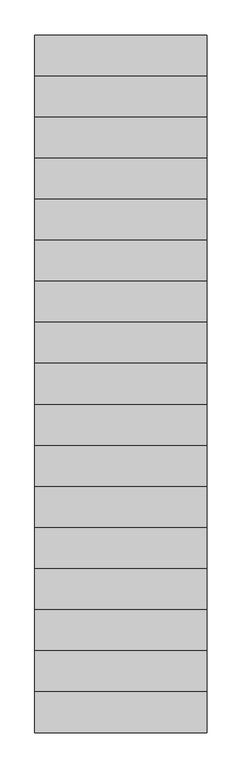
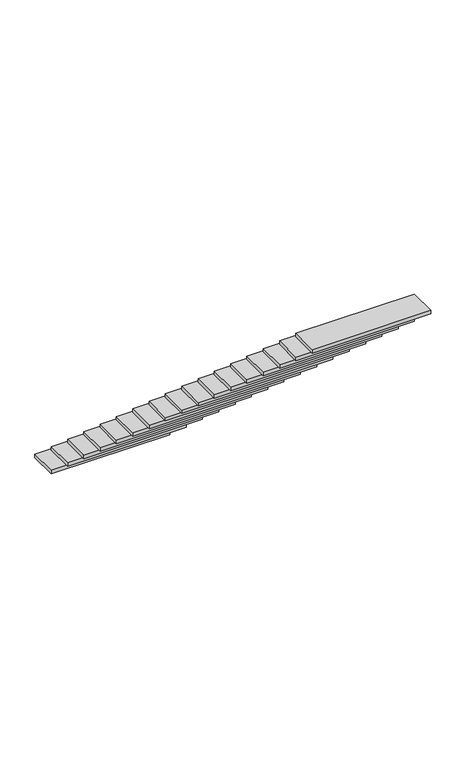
"""IFC4 building model written with IfcOpenShell, lengths in millimetres: stair flight geometry, Проступь 30 мм, подступенок 13 мм."""

import ifcopenshell
import ifcopenshell.guid

model = None  # the IFC model being written
_history = None  # IfcOwnerHistory: only IFC2X3 demands one
_inside = {}  # id of a spatial element -> (the spatial element, [elements in it])
_under = {}  # id of a project, library or spatial element -> (it, [spatial elements below it])
_declared = {}  # id of a project -> (the project, [libraries it declares])
_typed = {}  # id of a type object -> (the type object, [elements of that type])
_made_of = {}  # id of a material, layer set ... -> (it, [elements and type objects made of it])


def new_model(schema):
    """Start an empty IFC model of exactly this schema.

    Asked for "IFC4X3", IfcOpenShell would pick the latest addendum, in which some entities
    have other attributes; the version numbers below select the first issue.
    IFC2X3 requires an IfcOwnerHistory on every rooted entity: one is made here for all.
    """
    global model, _history
    if schema == "IFC4X3":
        model = ifcopenshell.file(schema_version=(4, 3, 0, 0))
    else:
        model = ifcopenshell.file(schema=schema)
    _inside.clear()
    _under.clear()
    _declared.clear()
    _typed.clear()
    _made_of.clear()
    _history = None
    if model.schema == "IFC2X3":
        org = make("IfcOrganization", Name="unknown")
        user = make(
            "IfcPersonAndOrganization",
            ThePerson=make("IfcPerson", FamilyName="unknown"),
            TheOrganization=org,
        )
        app = make(
            "IfcApplication",
            ApplicationDeveloper=org,
            Version="unknown",
            ApplicationFullName="unknown",
            ApplicationIdentifier="unknown",
        )
        _history = make(
            "IfcOwnerHistory",
            OwningUser=user,
            OwningApplication=app,
            ChangeAction="ADDED",
            CreationDate=0,
        )
    return model


def make(cls, **values):
    """One entity of the class cls with the attributes given. An attribute that is None is left unset."""
    return model.create_entity(
        cls, **{name: value for name, value in values.items() if value is not None}
    )


def rooted(cls, **values):
    """An entity with a GlobalId (a new one), such as an element, a storey or a relation."""
    return make(cls, GlobalId=ifcopenshell.guid.new(), OwnerHistory=_history, **values)


def si_unit(unit_type, name, prefix=None):
    """IfcSIUnit, for example si_unit("LENGTHUNIT", "METRE", prefix="MILLI")."""
    return make("IfcSIUnit", UnitType=unit_type, Prefix=prefix, Name=name)


def assignment(units):
    """IfcUnitAssignment: the units of a project."""
    return None if units is None else make("IfcUnitAssignment", Units=units)


def point(xyz):
    """IfcCartesianPoint."""
    return None if xyz is None else make("IfcCartesianPoint", Coordinates=xyz)


def direction(xyz):
    """IfcDirection."""
    return None if xyz is None else make("IfcDirection", DirectionRatios=xyz)


def frame(location, z_axis=None, x_axis=None):
    """IfcAxis2Placement3D, a coordinate frame: its origin and axes. An axis left out is left unset."""
    return make(
        "IfcAxis2Placement3D",
        Location=point(location),
        Axis=direction(z_axis),
        RefDirection=direction(x_axis),
    )


def origin():
    """The frame at (0, 0, 0) with its axes left unset."""
    return frame((0.0, 0.0, 0.0))


def place(relative_to, where):
    """IfcLocalPlacement: puts the frame where relative to a parent placement (None: the world)."""
    return make(
        "IfcLocalPlacement", PlacementRelTo=relative_to, RelativePlacement=where
    )


def context(
    kind, dimensions, precision=None, world=None, true_north=None, identifier=None
):
    """IfcGeometricRepresentationContext, for example the 3D "Model" context."""
    return make(
        "IfcGeometricRepresentationContext",
        ContextIdentifier=identifier,
        ContextType=kind,
        CoordinateSpaceDimension=dimensions,
        Precision=precision,
        WorldCoordinateSystem=world,
        TrueNorth=true_north,
    )


def project(units=None, contexts=None):
    """IfcProject with its units and contexts."""
    return rooted(
        "IfcProject",
        Name="project",
        RepresentationContexts=contexts,
        UnitsInContext=assignment(units),
    )


def spatial(cls, under=None, at=None, **own):
    """A site, building, storey or space (cls), placed at a placement, below another one or the project."""
    s = rooted(cls, ObjectPlacement=at, **own)
    if under is not None:
        _under.setdefault(under.id(), (under, []))[1].append(s)
    return s


def polyline(points):
    """IfcPolyline through the points."""
    return make("IfcPolyline", Points=[point(p) for p in points])


def outline(outer, holes=None, kind="AREA"):
    """IfcArbitraryClosedProfileDef: a profile drawn as a closed curve; with holes, ...WithVoids."""
    if holes is None:
        return make("IfcArbitraryClosedProfileDef", ProfileType=kind, OuterCurve=outer)
    return make(
        "IfcArbitraryProfileDefWithVoids",
        ProfileType=kind,
        OuterCurve=outer,
        InnerCurves=holes,
    )


def extrude(swept, where, along, depth):
    """IfcExtrudedAreaSolid: the profile swept, set in the frame where, extruded along a direction by depth."""
    return make(
        "IfcExtrudedAreaSolid",
        SweptArea=swept,
        Position=where,
        ExtrudedDirection=direction(along),
        Depth=depth,
    )


def shape(context_of_items, identifier, shape_type, items):
    """IfcShapeRepresentation: the items that make up one representation, for example the "Body"."""
    return make(
        "IfcShapeRepresentation",
        ContextOfItems=context_of_items,
        RepresentationIdentifier=identifier,
        RepresentationType=shape_type,
        Items=items,
    )


def source(mapping_origin, context_of_items, identifier, shape_type, items):
    """IfcRepresentationMap: a shape defined once, which mapped items show again and again."""
    return make(
        "IfcRepresentationMap",
        MappingOrigin=mapping_origin,
        MappedRepresentation=shape(context_of_items, identifier, shape_type, items),
    )


def transform(
    local_origin,
    x_axis=None,
    y_axis=None,
    z_axis=None,
    scale=None,
    scale2=None,
    scale3=None,
    uniform=True,
):
    """IfcCartesianTransformationOperator3D, or its non-uniform kind. x_axis, y_axis, z_axis: its Axis1, 2, 3."""
    if uniform:
        return make(
            "IfcCartesianTransformationOperator3D",
            Axis1=direction(x_axis),
            Axis2=direction(y_axis),
            LocalOrigin=point(local_origin),
            Scale=scale,
            Axis3=direction(z_axis),
        )
    return make(
        "IfcCartesianTransformationOperator3DnonUniform",
        Axis1=direction(x_axis),
        Axis2=direction(y_axis),
        LocalOrigin=point(local_origin),
        Scale=scale,
        Axis3=direction(z_axis),
        Scale2=scale2,
        Scale3=scale3,
    )


def mapped(mapping_source, mapping_target):
    """IfcMappedItem: shows the shape of a source again, moved by a transform."""
    return make(
        "IfcMappedItem", MappingSource=mapping_source, MappingTarget=mapping_target
    )


def made_of(thing, what):
    """Note that an element or type object is made of a material, layer set ...; save() writes the relation."""
    if what is not None:
        _made_of.setdefault(what.id(), (what, []))[1].append(thing)
    return thing


def element(
    cls,
    number,
    at=None,
    inside=None,
    cuts=None,
    type_object=None,
    material=None,
    context=None,
    identifier="Body",
    shape_type=None,
    held_by="IfcProductDefinitionShape",
    body=None,
    shapes=None,
    **own,
):
    """One element of the class cls, such as IfcWall. Its Tag is "e" and its number.

    at: its placement. inside: the storey or other place that contains it. cuts: it is an
    opening in that element (IfcRelVoidsElement). A single representation is given by context,
    identifier, shape_type and body (its items); several are given by shapes. held_by: the class
    of the entity that holds the representations. save() writes the other relations.
    """
    e = rooted(cls, Tag="e%d" % number, ObjectPlacement=at, **own)
    if body is not None:
        shapes = [shape(context, identifier, shape_type, body)]
    if shapes is not None:
        e.Representation = make(held_by, Representations=shapes)
    if inside is not None:
        _inside.setdefault(inside.id(), (inside, []))[1].append(e)
    if cuts is not None:
        rooted(
            "IfcRelVoidsElement", RelatingBuildingElement=cuts, RelatedOpeningElement=e
        )
    if type_object is not None:
        _typed.setdefault(type_object.id(), (type_object, []))[1].append(e)
    return made_of(e, material)


def aggregate(whole, parts):
    """IfcRelAggregates: a whole, such as a stair, and the parts it consists of."""
    return rooted("IfcRelAggregates", RelatingObject=whole, RelatedObjects=parts)


def save(model, path):
    """Write the relations noted so far, then the file.

    IfcRelAggregates (storeys below a building ...), IfcRelContainedInSpatialStructure (elements
    in a storey), IfcRelDefinesByType, IfcRelAssociatesMaterial and IfcRelDeclares: one each for
    every whole, place, type object, material and project.
    """
    for whole, parts in _under.values():
        aggregate(whole, parts)
    for where, things in _inside.values():
        rooted(
            "IfcRelContainedInSpatialStructure",
            RelatedElements=things,
            RelatingStructure=where,
        )
    for kind, things in _typed.values():
        rooted("IfcRelDefinesByType", RelatedObjects=things, RelatingType=kind)
    for what, things in _made_of.values():
        rooted("IfcRelAssociatesMaterial", RelatedObjects=things, RelatingMaterial=what)
    for by, libraries in _declared.values():
        rooted("IfcRelDeclares", RelatingContext=by, RelatedDefinitions=libraries)
    model.write(path)


def stair_flight_92a90b22(model_context):
    return source(origin(), model_context, "Body", "SweptSolid", [
        extrude(outline(polyline([(28729.9990554, 9391.9367173), (27729.9990554, 9391.9367173), (27729.9990554, 9630.1367173), (28729.9990554, 9630.1367173), (28729.9990554, 9391.9367173)])), frame((0.0, 0.0, 131.7647059), z_axis=(0.0, 0.0, 1.0), x_axis=(1.0, 0.0, 0.0)), (0.0, 0.0, 1.0), 30.0),
        extrude(outline(polyline([(28729.9990554, 9153.7367173), (27729.9990554, 9153.7367173), (27729.9990554, 9391.9367173), (28729.9990554, 9391.9367173), (28729.9990554, 9153.7367173)])), frame((0.0, 0.0, 343.5294118), z_axis=(0.0, 0.0, 1.0), x_axis=(1.0, 0.0, 0.0)), (0.0, 0.0, 1.0), 30.0),
        extrude(outline(polyline([(28729.9990554, 8915.5367173), (27729.9990554, 8915.5367173), (27729.9990554, 9153.7367173), (28729.9990554, 9153.7367173), (28729.9990554, 8915.5367173)])), frame((0.0, 0.0, 555.2941176), z_axis=(0.0, 0.0, 1.0), x_axis=(1.0, 0.0, 0.0)), (0.0, 0.0, 1.0), 30.0),
        extrude(outline(polyline([(28729.9990554, 8677.3367173), (27729.9990554, 8677.3367173), (27729.9990554, 8915.5367173), (28729.9990554, 8915.5367173), (28729.9990554, 8677.3367173)])), frame((0.0, 0.0, 767.0588235), z_axis=(0.0, 0.0, 1.0), x_axis=(1.0, 0.0, 0.0)), (0.0, 0.0, 1.0), 30.0),
        extrude(outline(polyline([(28729.9990554, 8439.1367173), (27729.9990554, 8439.1367173), (27729.9990554, 8677.3367173), (28729.9990554, 8677.3367173), (28729.9990554, 8439.1367173)])), frame((0.0, 0.0, 978.8235294), z_axis=(0.0, 0.0, 1.0), x_axis=(1.0, 0.0, 0.0)), (0.0, 0.0, 1.0), 30.0),
        extrude(outline(polyline([(28729.9990554, 8200.9367173), (27729.9990554, 8200.9367173), (27729.9990554, 8439.1367173), (28729.9990554, 8439.1367173), (28729.9990554, 8200.9367173)])), frame((0.0, 0.0, 1190.5882353), z_axis=(0.0, 0.0, 1.0), x_axis=(1.0, 0.0, 0.0)), (0.0, 0.0, 1.0), 30.0),
        extrude(outline(polyline([(28729.9990554, 7962.7367173), (27729.9990554, 7962.7367173), (27729.9990554, 8200.9367173), (28729.9990554, 8200.9367173), (28729.9990554, 7962.7367173)])), frame((0.0, 0.0, 1402.3529412), z_axis=(0.0, 0.0, 1.0), x_axis=(1.0, 0.0, 0.0)), (0.0, 0.0, 1.0), 30.0),
        extrude(outline(polyline([(28729.9990554, 7724.5367173), (27729.9990554, 7724.5367173), (27729.9990554, 7962.7367173), (28729.9990554, 7962.7367173), (28729.9990554, 7724.5367173)])), frame((0.0, 0.0, 1614.1176471), z_axis=(0.0, 0.0, 1.0), x_axis=(1.0, 0.0, 0.0)), (0.0, 0.0, 1.0), 30.0),
        extrude(outline(polyline([(28729.9990554, 7486.3367173), (27729.9990554, 7486.3367173), (27729.9990554, 7724.5367173), (28729.9990554, 7724.5367173), (28729.9990554, 7486.3367173)])), frame((0.0, 0.0, 1825.8823529), z_axis=(0.0, 0.0, 1.0), x_axis=(1.0, 0.0, 0.0)), (0.0, 0.0, 1.0), 30.0),
        extrude(outline(polyline([(28729.9990554, 7248.1367173), (27729.9990554, 7248.1367173), (27729.9990554, 7486.3367173), (28729.9990554, 7486.3367173), (28729.9990554, 7248.1367173)])), frame((0.0, 0.0, 2037.6470588), z_axis=(0.0, 0.0, 1.0), x_axis=(1.0, 0.0, 0.0)), (0.0, 0.0, 1.0), 30.0),
        extrude(outline(polyline([(28729.9990554, 7009.9367173), (27729.9990554, 7009.9367173), (27729.9990554, 7248.1367173), (28729.9990554, 7248.1367173), (28729.9990554, 7009.9367173)])), frame((0.0, 0.0, 2249.4117647), z_axis=(0.0, 0.0, 1.0), x_axis=(1.0, 0.0, 0.0)), (0.0, 0.0, 1.0), 30.0),
        extrude(outline(polyline([(28729.9990554, 6771.7367173), (27729.9990554, 6771.7367173), (27729.9990554, 7009.9367173), (28729.9990554, 7009.9367173), (28729.9990554, 6771.7367173)])), frame((0.0, 0.0, 2461.1764706), z_axis=(0.0, 0.0, 1.0), x_axis=(1.0, 0.0, 0.0)), (0.0, 0.0, 1.0), 30.0),
        extrude(outline(polyline([(28729.9990554, 6533.5367173), (27729.9990554, 6533.5367173), (27729.9990554, 6771.7367173), (28729.9990554, 6771.7367173), (28729.9990554, 6533.5367173)])), frame((0.0, 0.0, 2672.9411765), z_axis=(0.0, 0.0, 1.0), x_axis=(1.0, 0.0, 0.0)), (0.0, 0.0, 1.0), 30.0),
        extrude(outline(polyline([(28729.9990554, 6295.3367173), (27729.9990554, 6295.3367173), (27729.9990554, 6533.5367173), (28729.9990554, 6533.5367173), (28729.9990554, 6295.3367173)])), frame((0.0, 0.0, 2884.7058824), z_axis=(0.0, 0.0, 1.0), x_axis=(1.0, 0.0, 0.0)), (0.0, 0.0, 1.0), 30.0),
        extrude(outline(polyline([(28729.9990554, 6057.1367173), (27729.9990554, 6057.1367173), (27729.9990554, 6295.3367173), (28729.9990554, 6295.3367173), (28729.9990554, 6057.1367173)])), frame((0.0, 0.0, 3096.4705882), z_axis=(0.0, 0.0, 1.0), x_axis=(1.0, 0.0, 0.0)), (0.0, 0.0, 1.0), 30.0),
        extrude(outline(polyline([(28729.9990554, 5818.9367173), (27729.9990554, 5818.9367173), (27729.9990554, 6057.1367173), (28729.9990554, 6057.1367173), (28729.9990554, 5818.9367173)])), frame((0.0, 0.0, 3308.2352941), z_axis=(0.0, 0.0, 1.0), x_axis=(1.0, 0.0, 0.0)), (0.0, 0.0, 1.0), 30.0),
        extrude(outline(polyline([(28729.9990554, 5580.7367173), (27729.9990554, 5580.7367173), (27729.9990554, 5818.9367173), (28729.9990554, 5818.9367173), (28729.9990554, 5580.7367173)])), frame((0.0, 0.0, 3520.0), z_axis=(0.0, 0.0, 1.0), x_axis=(1.0, 0.0, 0.0)), (0.0, 0.0, 1.0), 30.0),
    ])


if __name__ == "__main__":
    model = new_model("IFC4")
    model_context = context("Model", 3, world=origin())
    ifc_project = project(units=[si_unit("LENGTHUNIT", "METRE", prefix="MILLI")], contexts=[model_context])
    site = spatial("IfcSite", under=ifc_project)
    building = spatial("IfcBuilding", under=site)
    placement = place(None, origin())
    stair_flight_shape = stair_flight_92a90b22(model_context)
    element("IfcStairFlight", 1, ObjectType="Проступь 30 мм, подступенок 13 мм", at=placement, inside=building, context=model_context, shape_type="MappedRepresentation", body=[
        mapped(stair_flight_shape, transform((0.0, 0.0, 0.0), x_axis=(1.0, 0.0, 0.0), y_axis=(0.0, 1.0, 0.0), z_axis=(0.0, 0.0, 1.0))),
    ])
    save(model, "model.ifc")
